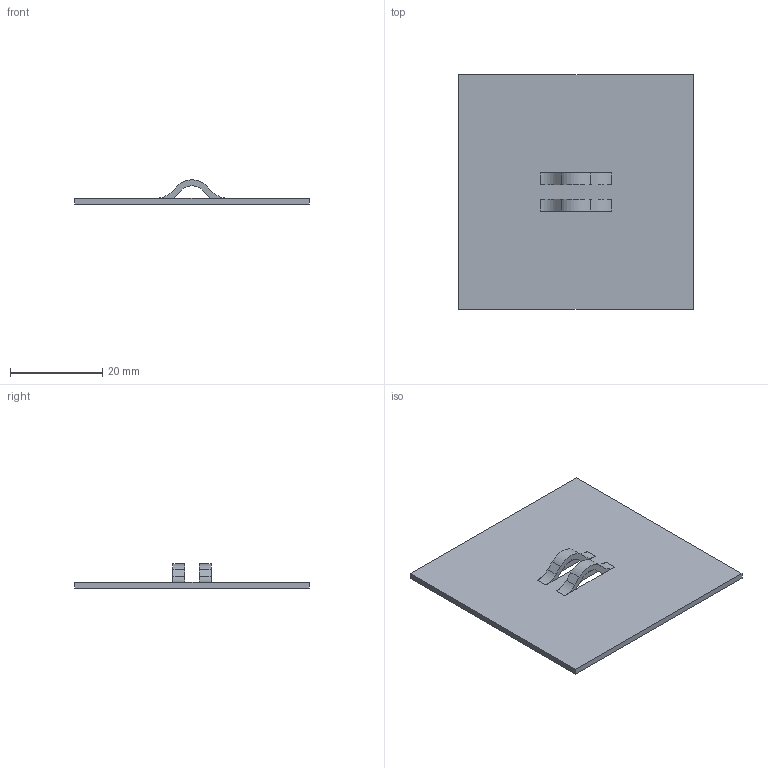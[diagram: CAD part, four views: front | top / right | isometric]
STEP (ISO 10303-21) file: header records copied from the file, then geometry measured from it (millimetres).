
FILE_DESCRIPTION((''),'1');
FILE_NAME('C:/Users/robertnolte/Desktop/WT#837395-10.stp','2012-03-27T20:03:22',(''),(''),'Spatial Interop R21 SP3','Kubotek KeyCreator 2011 V10.5.0 (24766)',' ');
FILE_SCHEMA(('CONFIG_CONTROL_DESIGN'));
Length unit declared in the file: inch
Products named in the file (1): 1
Bounding box: 50.8 x 50.8 x 5.22 mm (x, y, z)
Volume: 3293.7 mm3; surface area: 5612.6 mm2
Topology: 1 solids, 1 shells, 34 faces, 92 edges, 56 vertices
Faces by surface type: plane 22, cylinder 12
Entity records: 1112 total; most frequent: DIRECTION 186, ORIENTED_EDGE 184, CARTESIAN_POINT 183, EDGE_CURVE 92, LINE 68, VECTOR 68, AXIS2_PLACEMENT_3D 59, VERTEX_POINT 56
